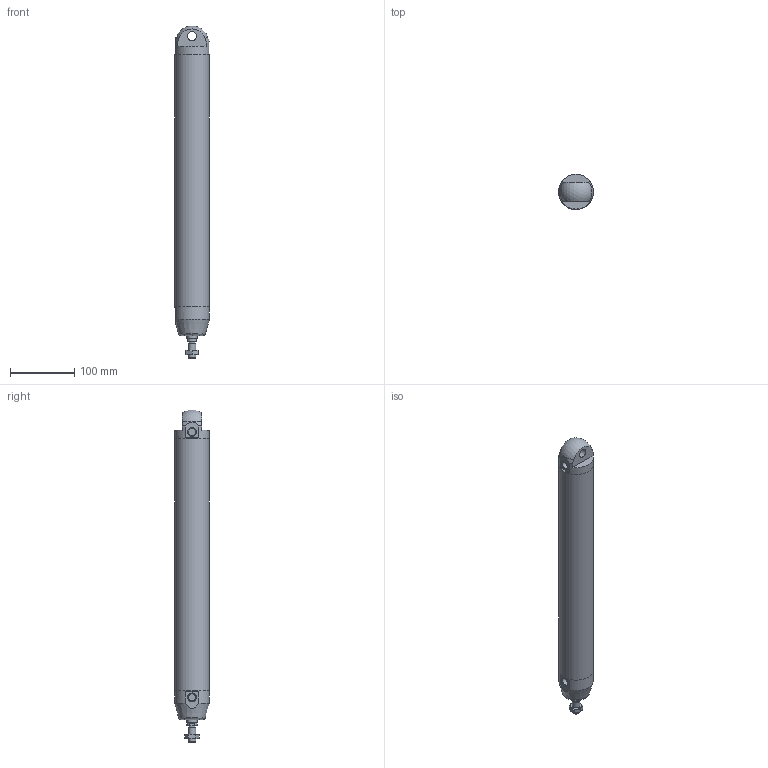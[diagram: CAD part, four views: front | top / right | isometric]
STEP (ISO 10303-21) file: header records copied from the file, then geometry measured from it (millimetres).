
FILE_DESCRIPTION(/* description */ (''),/* implementation_level */ '2;1');
FILE_NAME(/* name */ 'I:\Area Tecnica\Documenti\A-Manieri\_Inventor\12X\12X#A_###_####_#_#\12XAA_050_0350_#_#.stp',/* time_stamp */ '2015-04-22T12:05:35+02:00',/* author */ ('maniean1'),/* organization */ ('Pneumax S.p.A.'),/* preprocessor_version */ 'ST-DEVELOPER v15.2',/* originating_system */ 'Autodesk Inventor 2014',/* authorisation */ '');
FILE_SCHEMA (('AUTOMOTIVE_DESIGN { 1 0 10303 214 3 1 1 }'));
Length unit declared in the file: millimetre
Products named in the file (6): C1250_619-0350; 12X50_613; 12X50_605; S12X50_0350; 12X_50_11; 12XAA_050_0350_#_#
Bounding box: 54 x 54 x 516.83 mm (x, y, z)
Volume: 438873.1 mm3; surface area: 185628.5 mm2
Topology: 5 solids, 5 shells, 59 faces, 126 edges, 81 vertices
Faces by surface type: plane 31, cylinder 14, cone 12, torus 1, sphere 1
Full cylindrical faces by diameter (mm): 10.2 x1, 11.4 x2, 12 x2, 14 x2, 15.6 x1, 16 x1, 50 x2, 54 x3
Entity records: 1560 total; most frequent: CARTESIAN_POINT 288, DIRECTION 266, ORIENTED_EDGE 196, AXIS2_PLACEMENT_3D 120, EDGE_CURVE 98, EDGE_LOOP 94, VERTEX_POINT 76, ADVANCED_FACE 59
